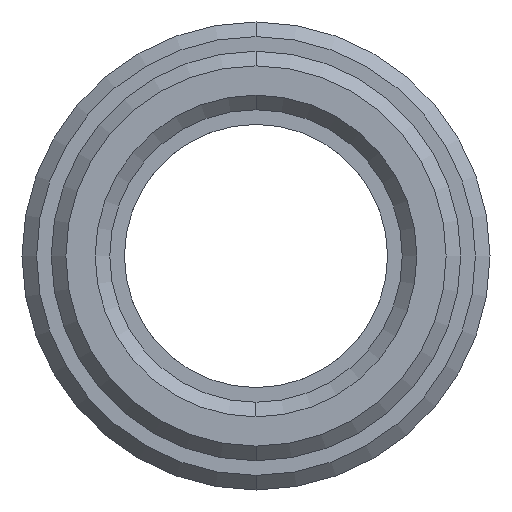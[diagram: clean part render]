
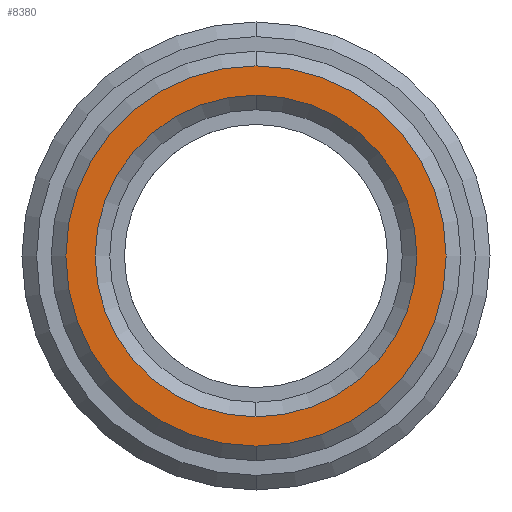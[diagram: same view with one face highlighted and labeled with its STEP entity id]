
A CAD part, left-side view. The second image highlights one B-rep face of the part: STEP entity #8380.
In plain terms, the highlighted planar face has unit normal (-1, 0, 0).
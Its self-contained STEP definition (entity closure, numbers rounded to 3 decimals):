
#3228=CARTESIAN_POINT('',(-5.,0.,0.));
#3229=DIRECTION('',(1.,0.,0.));
#3230=DIRECTION('',(0.,0.,-1.));
#3231=AXIS2_PLACEMENT_3D('',#3228,#3229,#3230);
#3233=CARTESIAN_POINT('',(-5.,0.,0.));
#3234=DIRECTION('',(1.,0.,0.));
#3235=DIRECTION('',(0.,0.,1.));
#3236=AXIS2_PLACEMENT_3D('',#3233,#3234,#3235);
#3238=CARTESIAN_POINT('',(-5.,0.,0.));
#3239=DIRECTION('',(1.,0.,0.));
#3240=DIRECTION('',(0.,0.,-1.));
#3241=AXIS2_PLACEMENT_3D('',#3238,#3239,#3240);
#3243=CARTESIAN_POINT('',(-5.,0.,0.));
#3244=DIRECTION('',(1.,0.,0.));
#3245=DIRECTION('',(0.,0.,1.));
#3246=AXIS2_PLACEMENT_3D('',#3243,#3244,#3245);
#6966=CARTESIAN_POINT('',(-5.,0.,-6.5));
#6967=CARTESIAN_POINT('',(-5.,0.,6.5));
#6968=VERTEX_POINT('',#6966);
#6969=VERTEX_POINT('',#6967);
#6970=CARTESIAN_POINT('',(-5.,0.,-5.5));
#6971=CARTESIAN_POINT('',(-5.,0.,5.5));
#6972=VERTEX_POINT('',#6970);
#6973=VERTEX_POINT('',#6971);
#8364=CARTESIAN_POINT('',(-5.,0.,0.));
#8365=DIRECTION('',(1.,0.,0.));
#8366=DIRECTION('',(0.,0.,1.));
#8367=AXIS2_PLACEMENT_3D('',#8364,#8365,#8366);
#8368=PLANE('',#8367);
#8370=ORIENTED_EDGE('',*,*,#8369,.T.);
#8372=ORIENTED_EDGE('',*,*,#8371,.T.);
#8373=EDGE_LOOP('',(#8370,#8372));
#8374=FACE_OUTER_BOUND('',#8373,.F.);
#8376=ORIENTED_EDGE('',*,*,#8375,.F.);
#8377=ORIENTED_EDGE('',*,*,#8354,.F.);
#8378=EDGE_LOOP('',(#8376,#8377));
#8379=FACE_BOUND('',#8378,.F.);
#8380=ADVANCED_FACE('',(#8374,#8379),#8368,.F.);
#3232=CIRCLE('',#3231,6.5);
#3237=CIRCLE('',#3236,6.5);
#3242=CIRCLE('',#3241,5.5);
#3247=CIRCLE('',#3246,5.5);
#8354=EDGE_CURVE('',#6973,#6972,#3247,.T.);
#8369=EDGE_CURVE('',#6968,#6969,#3232,.T.);
#8371=EDGE_CURVE('',#6969,#6968,#3237,.T.);
#8375=EDGE_CURVE('',#6972,#6973,#3242,.T.);
